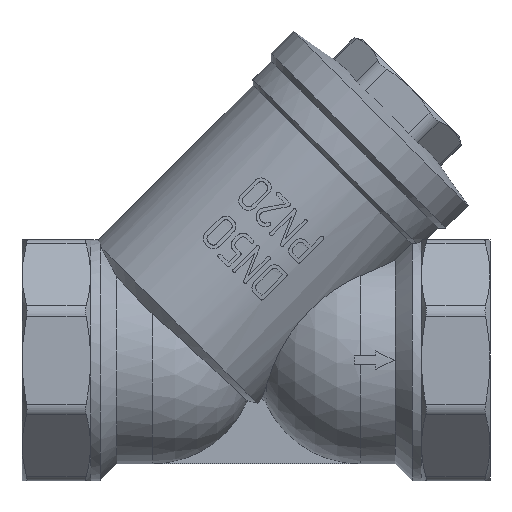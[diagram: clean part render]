
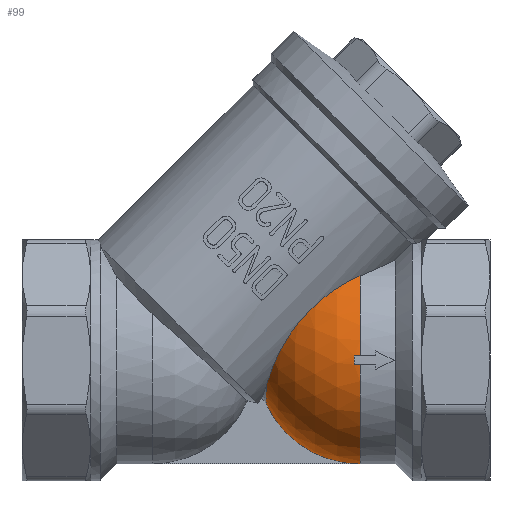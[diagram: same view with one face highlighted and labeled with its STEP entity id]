
A CAD part, left-side view. The second image highlights one B-rep face of the part: STEP entity #99.
In plain terms, the highlighted spherical face has radius 28 mm.
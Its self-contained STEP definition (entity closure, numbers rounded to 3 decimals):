
#99=ADVANCED_FACE('',(#755),#757,.T.);
#755=FACE_BOUND('',#756,.T.);
#756=EDGE_LOOP('',(#3190,#3191,#3192,#3193,#3194,#3195,#3196,#3197));
#757=SPHERICAL_SURFACE('',#758,28.);
#758=AXIS2_PLACEMENT_3D('',#759,#760,#761);
#759=CARTESIAN_POINT('',(0.,-28.,0.));
#760=DIRECTION('',(0.,-1.,0.));
#761=DIRECTION('',(0.,0.,-1.));
#3190=ORIENTED_EDGE('',*,*,#5332,.F.);
#3191=ORIENTED_EDGE('',*,*,#5333,.F.);
#3192=ORIENTED_EDGE('',*,*,#5334,.F.);
#3193=ORIENTED_EDGE('',*,*,#5294,.F.);
#3194=ORIENTED_EDGE('',*,*,#5121,.F.);
#3195=ORIENTED_EDGE('',*,*,#5331,.T.);
#3196=ORIENTED_EDGE('',*,*,#5329,.F.);
#3197=ORIENTED_EDGE('',*,*,#5301,.F.);
#5121=EDGE_CURVE('',#6126,#6128,#6129,.F.);
#5294=EDGE_CURVE('',#6128,#6469,#6470,.F.);
#5301=EDGE_CURVE('',#6481,#6483,#6484,.F.);
#5329=EDGE_CURVE('',#6483,#6530,#6531,.T.);
#5331=EDGE_CURVE('',#6126,#6530,#6533,.T.);
#5332=EDGE_CURVE('',#6534,#6481,#6535,.F.);
#5333=EDGE_CURVE('',#6536,#6534,#6537,.T.);
#5334=EDGE_CURVE('',#6469,#6536,#6538,.T.);
#6126=VERTEX_POINT('',#9498);
#6128=VERTEX_POINT('',#9539);
#6129=B_SPLINE_CURVE_WITH_KNOTS('',3,
(#9540,#9541,#9542,#9543,#9544,#9545,#9546,#9547,#9548,#9549,#9550,#9551,#9552,#9553,
#9554,#9555,#9556,#9557,#9558,#9559,#9560,#9561,#9562,#9563,#9564,#9565,#9566,#9567,
#9568,#9569,#9570,#9571,#9572,#9573,#9574,#9575,#9576,#9577,#9578,#9579,#9580,#9581,
#9582,#9583,#9584,#9585,#9586,#9587,#9588,#9589,#9590,#9591,#9592,#9593,#9594,#9595,
#9596,#9597,#9598,#9599,#9600,#9601,#9602),
.UNSPECIFIED.,.F.,.F.,
(4,1,1,1,1,1,1,1,1,1,1,1,1,1,1,1,1,1,1,1,1,1,1,1,1,1,1,1,1,1,1,1,1,1,1,1,1,1,1,1,
1,1,1,1,1,1,1,1,1,1,1,1,1,1,1,1,1,1,1,1,4),
(0.,0.013,0.027,0.041,0.055,0.068,
0.082,0.096,0.11,0.124,0.138,
0.153,0.167,0.182,0.197,0.212,
0.227,0.243,0.258,0.274,0.29,
0.305,0.321,0.336,0.352,0.367,
0.382,0.386,0.397,0.412,0.426,
0.443,0.461,0.487,0.513,0.54,
0.567,0.604,0.651,0.692,0.723,
0.743,0.764,0.79,0.816,0.842,
0.858,0.873,0.885,0.897,0.908,
0.919,0.929,0.939,0.948,0.958,
0.966,0.975,0.984,0.992,1.),
.UNSPECIFIED.);
#6469=VERTEX_POINT('',#12495);
#6470=CIRCLE('',#12496,28.);
#6481=VERTEX_POINT('',#12524);
#6483=VERTEX_POINT('',#12528);
#6484=CIRCLE('',#12529,28.);
#6530=VERTEX_POINT('',#12855);
#6531=CIRCLE('',#12856,27.888);
#6533=CIRCLE('',#12876,12.017);
#6534=VERTEX_POINT('',#12880);
#6535=CIRCLE('',#12881,27.974);
#6536=VERTEX_POINT('',#12885);
#6537=CIRCLE('',#12886,27.96);
#6538=CIRCLE('',#12890,27.974);
#9498=CARTESIAN_POINT('',(-9.74,-2.71,-7.038));
#9539=CARTESIAN_POINT('',(-16.388,-28.,22.703));
#9540=CARTESIAN_POINT('',(-16.388,-28.,22.703));
#9541=CARTESIAN_POINT('',(-16.485,-27.843,22.633));
#9542=CARTESIAN_POINT('',(-16.678,-27.526,22.489));
#9543=CARTESIAN_POINT('',(-16.956,-27.044,22.264));
#9544=CARTESIAN_POINT('',(-17.226,-26.554,22.03));
#9545=CARTESIAN_POINT('',(-17.486,-26.057,21.785));
#9546=CARTESIAN_POINT('',(-17.736,-25.556,21.531));
#9547=CARTESIAN_POINT('',(-17.975,-25.054,21.269));
#9548=CARTESIAN_POINT('',(-18.2,-24.552,20.999));
#9549=CARTESIAN_POINT('',(-18.415,-24.049,20.722));
#9550=CARTESIAN_POINT('',(-18.621,-23.539,20.432));
#9551=CARTESIAN_POINT('',(-18.82,-23.021,20.129));
#9552=CARTESIAN_POINT('',(-19.009,-22.494,19.811));
#9553=CARTESIAN_POINT('',(-19.187,-21.966,19.483));
#9554=CARTESIAN_POINT('',(-19.355,-21.434,19.142));
#9555=CARTESIAN_POINT('',(-19.512,-20.899,18.788));
#9556=CARTESIAN_POINT('',(-19.659,-20.358,18.419));
#9557=CARTESIAN_POINT('',(-19.795,-19.815,18.036));
#9558=CARTESIAN_POINT('',(-19.919,-19.269,17.64));
#9559=CARTESIAN_POINT('',(-20.031,-18.725,17.23));
#9560=CARTESIAN_POINT('',(-20.13,-18.183,16.809));
#9561=CARTESIAN_POINT('',(-20.217,-17.645,16.378));
#9562=CARTESIAN_POINT('',(-20.29,-17.114,15.937));
#9563=CARTESIAN_POINT('',(-20.349,-16.592,15.489));
#9564=CARTESIAN_POINT('',(-20.396,-16.08,15.035));
#9565=CARTESIAN_POINT('',(-20.43,-15.578,14.576));
#9566=CARTESIAN_POINT('',(-20.451,-15.087,14.112));
#9567=CARTESIAN_POINT('',(-20.458,-14.724,13.758));
#9568=CARTESIAN_POINT('',(-20.459,-14.41,13.445));
#9569=CARTESIAN_POINT('',(-20.456,-14.101,13.133));
#9570=CARTESIAN_POINT('',(-20.443,-13.687,12.702));
#9571=CARTESIAN_POINT('',(-20.417,-13.226,12.208));
#9572=CARTESIAN_POINT('',(-20.375,-12.741,11.671));
#9573=CARTESIAN_POINT('',(-20.305,-12.155,10.997));
#9574=CARTESIAN_POINT('',(-20.196,-11.49,10.198));
#9575=CARTESIAN_POINT('',(-20.037,-10.772,9.284));
#9576=CARTESIAN_POINT('',(-19.838,-10.079,8.351));
#9577=CARTESIAN_POINT('',(-19.569,-9.326,7.28));
#9578=CARTESIAN_POINT('',(-19.172,-8.449,5.946));
#9579=CARTESIAN_POINT('',(-18.626,-7.537,4.429));
#9580=CARTESIAN_POINT('',(-18.004,-6.745,2.985));
#9581=CARTESIAN_POINT('',(-17.456,-6.178,1.873));
#9582=CARTESIAN_POINT('',(-16.992,-5.762,1.015));
#9583=CARTESIAN_POINT('',(-16.527,-5.391,0.216));
#9584=CARTESIAN_POINT('',(-15.99,-5.014,-0.636));
#9585=CARTESIAN_POINT('',(-15.372,-4.638,-1.53));
#9586=CARTESIAN_POINT('',(-14.795,-4.333,-2.293));
#9587=CARTESIAN_POINT('',(-14.29,-4.095,-2.914));
#9588=CARTESIAN_POINT('',(-13.889,-3.921,-3.379));
#9589=CARTESIAN_POINT('',(-13.52,-3.773,-3.787));
#9590=CARTESIAN_POINT('',(-13.174,-3.643,-4.152));
#9591=CARTESIAN_POINT('',(-12.834,-3.523,-4.497));
#9592=CARTESIAN_POINT('',(-12.504,-3.413,-4.817));
#9593=CARTESIAN_POINT('',(-12.179,-3.312,-5.12));
#9594=CARTESIAN_POINT('',(-11.86,-3.217,-5.406));
#9595=CARTESIAN_POINT('',(-11.543,-3.129,-5.679));
#9596=CARTESIAN_POINT('',(-11.234,-3.047,-5.935));
#9597=CARTESIAN_POINT('',(-10.929,-2.971,-6.178));
#9598=CARTESIAN_POINT('',(-10.629,-2.9,-6.408));
#9599=CARTESIAN_POINT('',(-10.331,-2.833,-6.628));
#9600=CARTESIAN_POINT('',(-10.036,-2.769,-6.837));
#9601=CARTESIAN_POINT('',(-9.838,-2.729,-6.972));
#9602=CARTESIAN_POINT('',(-9.74,-2.71,-7.038));
#12495=CARTESIAN_POINT('',(-27.974,-28.,1.2));
#12496=AXIS2_PLACEMENT_3D('',#12497,#12498,#12499);
#12497=CARTESIAN_POINT('',(0.,-28.,0.));
#12498=DIRECTION('',(0.,1.,0.));
#12499=DIRECTION('',(-0.999,0.,0.043));
#12524=CARTESIAN_POINT('',(-27.974,-28.,-1.2));
#12528=CARTESIAN_POINT('',(-2.5,-28.,-27.888));
#12529=AXIS2_PLACEMENT_3D('',#12530,#12531,#12532);
#12530=CARTESIAN_POINT('',(0.,-28.,0.));
#12531=DIRECTION('',(0.,1.,0.));
#12532=DIRECTION('',(-0.089,0.,-0.996));
#12855=CARTESIAN_POINT('',(-2.5,-2.71,-11.754));
#12856=AXIS2_PLACEMENT_3D('',#12857,#12858,#12859);
#12857=CARTESIAN_POINT('',(-2.5,-28.,0.));
#12858=DIRECTION('',(1.,0.,0.));
#12859=DIRECTION('',(0.,0.,-1.));
#12876=AXIS2_PLACEMENT_3D('',#12877,#12878,#12879);
#12877=CARTESIAN_POINT('',(0.,-2.71,0.));
#12878=DIRECTION('',(0.,-1.,0.));
#12879=DIRECTION('',(-0.811,0.,-0.586));
#12880=CARTESIAN_POINT('',(-27.934,-26.5,-1.2));
#12881=AXIS2_PLACEMENT_3D('',#12882,#12883,#12884);
#12882=CARTESIAN_POINT('',(0.,-28.,-1.2));
#12883=DIRECTION('',(0.,0.,-1.));
#12884=DIRECTION('',(-1.,0.,0.));
#12885=CARTESIAN_POINT('',(-27.934,-26.5,1.2));
#12886=AXIS2_PLACEMENT_3D('',#12887,#12888,#12889);
#12887=CARTESIAN_POINT('',(0.,-26.5,0.));
#12888=DIRECTION('',(0.,-1.,0.));
#12889=DIRECTION('',(-0.999,0.,0.043));
#12890=AXIS2_PLACEMENT_3D('',#12891,#12892,#12893);
#12891=CARTESIAN_POINT('',(0.,-28.,1.2));
#12892=DIRECTION('',(0.,0.,-1.));
#12893=DIRECTION('',(-1.,0.,0.));
